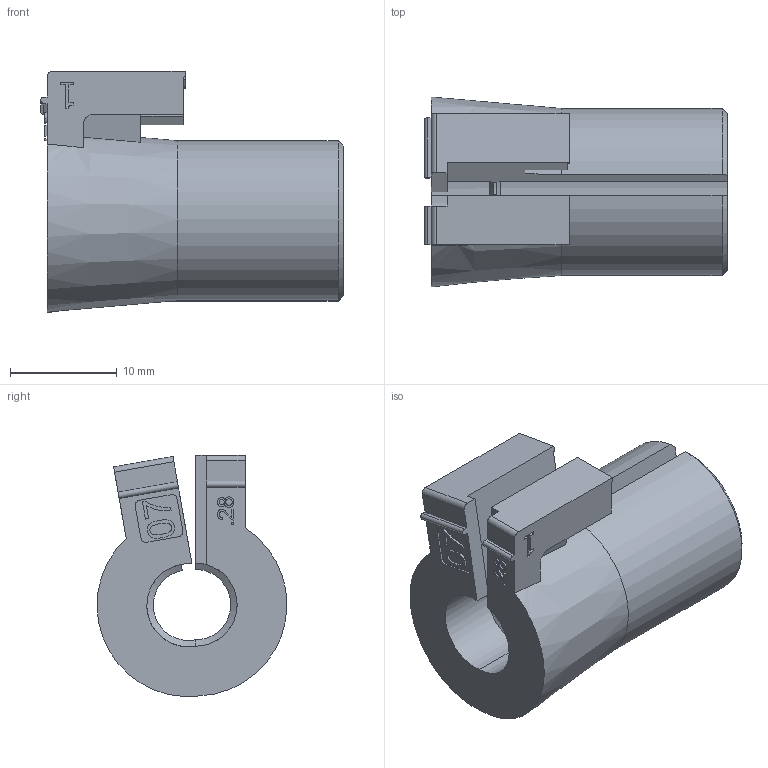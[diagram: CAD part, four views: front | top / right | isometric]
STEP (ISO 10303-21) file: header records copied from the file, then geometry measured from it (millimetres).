
FILE_DESCRIPTION(/* description */ (''),/* implementation_level */ '2;1');
FILE_NAME(/* name */ 'C:\SapWorkDir\Inventor\MP1\ConvertTempPath\87_12_121350_00_A_220530_KDT-X 07.stp',/* time_stamp */ '2022-05-31T08:57:25+02:00',/* author */ ('BAUER'),/* organization */ (''),/* preprocessor_version */ 'ST-DEVELOPER v16.13',/* originating_system */ 'Autodesk Inventor 2018',/* authorisation */ '');
FILE_SCHEMA (('AUTOMOTIVE_DESIGN { 1 0 10303 214 3 1 1 }'));
Length unit declared in the file: millimetre
Products named in the file (1): 121350
Bounding box: 28.4 x 17.82 x 22.62 mm (x, y, z)
Volume: 4482.7 mm3; surface area: 3089 mm2
Topology: 1 solids, 1 shells, 139 faces, 375 edges, 248 vertices
Faces by surface type: plane 72, bspline 39, cylinder 20, cone 8
Entity records: 4653 total; most frequent: CARTESIAN_POINT 1289, ORIENTED_EDGE 750, DIRECTION 546, EDGE_CURVE 375, VERTEX_POINT 248, LINE 236, VECTOR 236, AXIS2_PLACEMENT_3D 155
